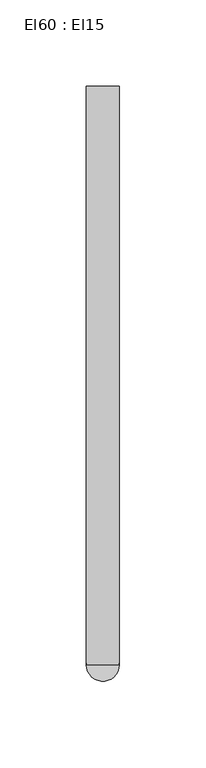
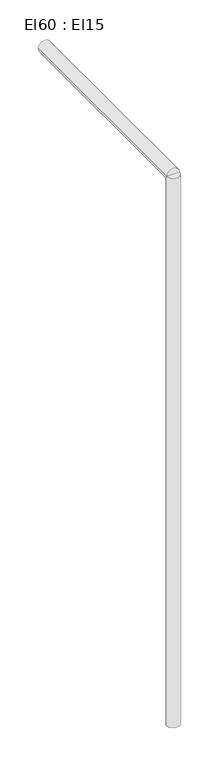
"""IFC4 building model written with IfcOpenShell, lengths in millimetres: cable carrier segment geometry, El60 : El15."""

import ifcopenshell
import ifcopenshell.guid

model = None  # the IFC model being written
_history = None  # IfcOwnerHistory: only IFC2X3 demands one
_inside = {}  # id of a spatial element -> (the spatial element, [elements in it])
_under = {}  # id of a project, library or spatial element -> (it, [spatial elements below it])
_declared = {}  # id of a project -> (the project, [libraries it declares])
_typed = {}  # id of a type object -> (the type object, [elements of that type])
_made_of = {}  # id of a material, layer set ... -> (it, [elements and type objects made of it])


def new_model(schema):
    """Start an empty IFC model of exactly this schema.

    Asked for "IFC4X3", IfcOpenShell would pick the latest addendum, in which some entities
    have other attributes; the version numbers below select the first issue.
    IFC2X3 requires an IfcOwnerHistory on every rooted entity: one is made here for all.
    """
    global model, _history
    if schema == "IFC4X3":
        model = ifcopenshell.file(schema_version=(4, 3, 0, 0))
    else:
        model = ifcopenshell.file(schema=schema)
    _inside.clear()
    _under.clear()
    _declared.clear()
    _typed.clear()
    _made_of.clear()
    _history = None
    if model.schema == "IFC2X3":
        org = make("IfcOrganization", Name="unknown")
        user = make(
            "IfcPersonAndOrganization",
            ThePerson=make("IfcPerson", FamilyName="unknown"),
            TheOrganization=org,
        )
        app = make(
            "IfcApplication",
            ApplicationDeveloper=org,
            Version="unknown",
            ApplicationFullName="unknown",
            ApplicationIdentifier="unknown",
        )
        _history = make(
            "IfcOwnerHistory",
            OwningUser=user,
            OwningApplication=app,
            ChangeAction="ADDED",
            CreationDate=0,
        )
    return model


def make(cls, **values):
    """One entity of the class cls with the attributes given. An attribute that is None is left unset."""
    return model.create_entity(
        cls, **{name: value for name, value in values.items() if value is not None}
    )


def rooted(cls, **values):
    """An entity with a GlobalId (a new one), such as an element, a storey or a relation."""
    return make(cls, GlobalId=ifcopenshell.guid.new(), OwnerHistory=_history, **values)


def si_unit(unit_type, name, prefix=None):
    """IfcSIUnit, for example si_unit("LENGTHUNIT", "METRE", prefix="MILLI")."""
    return make("IfcSIUnit", UnitType=unit_type, Prefix=prefix, Name=name)


def assignment(units):
    """IfcUnitAssignment: the units of a project."""
    return None if units is None else make("IfcUnitAssignment", Units=units)


def point(xyz):
    """IfcCartesianPoint."""
    return None if xyz is None else make("IfcCartesianPoint", Coordinates=xyz)


def direction(xyz):
    """IfcDirection."""
    return None if xyz is None else make("IfcDirection", DirectionRatios=xyz)


def frame(location, z_axis=None, x_axis=None):
    """IfcAxis2Placement3D, a coordinate frame: its origin and axes. An axis left out is left unset."""
    return make(
        "IfcAxis2Placement3D",
        Location=point(location),
        Axis=direction(z_axis),
        RefDirection=direction(x_axis),
    )


def frame_2d(location, x_axis=None):
    """IfcAxis2Placement2D, a coordinate frame in the plane: its origin and x axis."""
    return make(
        "IfcAxis2Placement2D", Location=point(location), RefDirection=direction(x_axis)
    )


def origin():
    """The frame at (0, 0, 0) with its axes left unset."""
    return frame((0.0, 0.0, 0.0))


def place(relative_to, where):
    """IfcLocalPlacement: puts the frame where relative to a parent placement (None: the world)."""
    return make(
        "IfcLocalPlacement", PlacementRelTo=relative_to, RelativePlacement=where
    )


def context(
    kind, dimensions, precision=None, world=None, true_north=None, identifier=None
):
    """IfcGeometricRepresentationContext, for example the 3D "Model" context."""
    return make(
        "IfcGeometricRepresentationContext",
        ContextIdentifier=identifier,
        ContextType=kind,
        CoordinateSpaceDimension=dimensions,
        Precision=precision,
        WorldCoordinateSystem=world,
        TrueNorth=true_north,
    )


def project(units=None, contexts=None):
    """IfcProject with its units and contexts."""
    return rooted(
        "IfcProject",
        Name="project",
        RepresentationContexts=contexts,
        UnitsInContext=assignment(units),
    )


def spatial(cls, under=None, at=None, **own):
    """A site, building, storey or space (cls), placed at a placement, below another one or the project."""
    s = rooted(cls, ObjectPlacement=at, **own)
    if under is not None:
        _under.setdefault(under.id(), (under, []))[1].append(s)
    return s


def circle_curve(where, radius):
    """IfcCircle in the frame where."""
    return make("IfcCircle", Position=where, Radius=radius)


def trimmed(basis, trim1, trim2, sense, master):
    """IfcTrimmedCurve: the piece of a basis curve between two trims."""
    return make(
        "IfcTrimmedCurve",
        BasisCurve=basis,
        Trim1=trim1,
        Trim2=trim2,
        SenseAgreement=sense,
        MasterRepresentation=master,
    )


def segment(curve, same_sense, transition):
    """IfcCompositeCurveSegment."""
    return make(
        "IfcCompositeCurveSegment",
        Transition=transition,
        SameSense=same_sense,
        ParentCurve=curve,
    )


def composite_curve(segments, self_intersect=None):
    """IfcCompositeCurve: segments joined end to end."""
    return make("IfcCompositeCurve", Segments=segments, SelfIntersect=self_intersect)


def outline(outer, holes=None, kind="AREA"):
    """IfcArbitraryClosedProfileDef: a profile drawn as a closed curve; with holes, ...WithVoids."""
    if holes is None:
        return make("IfcArbitraryClosedProfileDef", ProfileType=kind, OuterCurve=outer)
    return make(
        "IfcArbitraryProfileDefWithVoids",
        ProfileType=kind,
        OuterCurve=outer,
        InnerCurves=holes,
    )


def extrude(swept, where, along, depth):
    """IfcExtrudedAreaSolid: the profile swept, set in the frame where, extruded along a direction by depth."""
    return make(
        "IfcExtrudedAreaSolid",
        SweptArea=swept,
        Position=where,
        ExtrudedDirection=direction(along),
        Depth=depth,
    )


def shape(context_of_items, identifier, shape_type, items):
    """IfcShapeRepresentation: the items that make up one representation, for example the "Body"."""
    return make(
        "IfcShapeRepresentation",
        ContextOfItems=context_of_items,
        RepresentationIdentifier=identifier,
        RepresentationType=shape_type,
        Items=items,
    )


def source(mapping_origin, context_of_items, identifier, shape_type, items):
    """IfcRepresentationMap: a shape defined once, which mapped items show again and again."""
    return make(
        "IfcRepresentationMap",
        MappingOrigin=mapping_origin,
        MappedRepresentation=shape(context_of_items, identifier, shape_type, items),
    )


def transform(
    local_origin,
    x_axis=None,
    y_axis=None,
    z_axis=None,
    scale=None,
    scale2=None,
    scale3=None,
    uniform=True,
):
    """IfcCartesianTransformationOperator3D, or its non-uniform kind. x_axis, y_axis, z_axis: its Axis1, 2, 3."""
    if uniform:
        return make(
            "IfcCartesianTransformationOperator3D",
            Axis1=direction(x_axis),
            Axis2=direction(y_axis),
            LocalOrigin=point(local_origin),
            Scale=scale,
            Axis3=direction(z_axis),
        )
    return make(
        "IfcCartesianTransformationOperator3DnonUniform",
        Axis1=direction(x_axis),
        Axis2=direction(y_axis),
        LocalOrigin=point(local_origin),
        Scale=scale,
        Axis3=direction(z_axis),
        Scale2=scale2,
        Scale3=scale3,
    )


def mapped(mapping_source, mapping_target):
    """IfcMappedItem: shows the shape of a source again, moved by a transform."""
    return make(
        "IfcMappedItem", MappingSource=mapping_source, MappingTarget=mapping_target
    )


def made_of(thing, what):
    """Note that an element or type object is made of a material, layer set ...; save() writes the relation."""
    if what is not None:
        _made_of.setdefault(what.id(), (what, []))[1].append(thing)
    return thing


def element(
    cls,
    number,
    at=None,
    inside=None,
    cuts=None,
    type_object=None,
    material=None,
    context=None,
    identifier="Body",
    shape_type=None,
    held_by="IfcProductDefinitionShape",
    body=None,
    shapes=None,
    **own,
):
    """One element of the class cls, such as IfcWall. Its Tag is "e" and its number.

    at: its placement. inside: the storey or other place that contains it. cuts: it is an
    opening in that element (IfcRelVoidsElement). A single representation is given by context,
    identifier, shape_type and body (its items); several are given by shapes. held_by: the class
    of the entity that holds the representations. save() writes the other relations.
    """
    e = rooted(cls, Tag="e%d" % number, ObjectPlacement=at, **own)
    if body is not None:
        shapes = [shape(context, identifier, shape_type, body)]
    if shapes is not None:
        e.Representation = make(held_by, Representations=shapes)
    if inside is not None:
        _inside.setdefault(inside.id(), (inside, []))[1].append(e)
    if cuts is not None:
        rooted(
            "IfcRelVoidsElement", RelatingBuildingElement=cuts, RelatedOpeningElement=e
        )
    if type_object is not None:
        _typed.setdefault(type_object.id(), (type_object, []))[1].append(e)
    return made_of(e, material)


def aggregate(whole, parts):
    """IfcRelAggregates: a whole, such as a stair, and the parts it consists of."""
    return rooted("IfcRelAggregates", RelatingObject=whole, RelatedObjects=parts)


def save(model, path):
    """Write the relations noted so far, then the file.

    IfcRelAggregates (storeys below a building ...), IfcRelContainedInSpatialStructure (elements
    in a storey), IfcRelDefinesByType, IfcRelAssociatesMaterial and IfcRelDeclares: one each for
    every whole, place, type object, material and project.
    """
    for whole, parts in _under.values():
        aggregate(whole, parts)
    for where, things in _inside.values():
        rooted(
            "IfcRelContainedInSpatialStructure",
            RelatedElements=things,
            RelatingStructure=where,
        )
    for kind, things in _typed.values():
        rooted("IfcRelDefinesByType", RelatedObjects=things, RelatingType=kind)
    for what, things in _made_of.values():
        rooted("IfcRelAssociatesMaterial", RelatedObjects=things, RelatingMaterial=what)
    for by, libraries in _declared.values():
        rooted("IfcRelDeclares", RelatingContext=by, RelatedDefinitions=libraries)
    model.write(path)


def el60_el15_bd98858c(model_context):
    return source(origin(), model_context, "Body", "SweptSolid", [
        extrude(outline(composite_curve([segment(trimmed(circle_curve(frame_2d((114.4746511, 3125.8401745)), 9.5), [point((104.9746511, 3125.8401745))], [point((123.9746511, 3125.8401745))], False, "CARTESIAN"), True, "CONTINUOUS"), segment(trimmed(circle_curve(frame_2d((114.4746511, 3125.8401745)), 9.5), [point((123.9746511, 3125.8401745))], [point((104.9746511, 3125.8401745))], False, "CARTESIAN"), True, "CONTINUOUS")], self_intersect=False)), frame((0.0, 0.0, 1830.0), z_axis=(0.0, 0.0, 1.0), x_axis=(1.0, 0.0, 0.0)), (0.0, 0.0, 1.0), 870.0),
        extrude(outline(composite_curve([segment(trimmed(circle_curve(frame_2d((2700.0, 114.4746511)), 9.5), [point((2700.0, 104.9746511))], [point((2700.0, 123.9746511))], False, "CARTESIAN"), True, "CONTINUOUS"), segment(trimmed(circle_curve(frame_2d((2700.0, 114.4746511)), 9.5), [point((2700.0, 123.9746511))], [point((2700.0, 104.9746511))], False, "CARTESIAN"), True, "CONTINUOUS")], self_intersect=False)), frame((0.0, 3125.8411745, 0.0), z_axis=(0.0, 1.0, 0.0), x_axis=(0.0, 0.0, 1.0)), (0.0, 0.0, 1.0), 334.443),
    ])


if __name__ == "__main__":
    model = new_model("IFC4")
    model_context = context("Model", 3, world=origin())
    ifc_project = project(units=[si_unit("LENGTHUNIT", "METRE", prefix="MILLI")], contexts=[model_context])
    site = spatial("IfcSite", under=ifc_project)
    building = spatial("IfcBuilding", under=site)
    placement = place(None, origin())
    el60_el15_shape = el60_el15_bd98858c(model_context)
    element("IfcCableCarrierSegment", 1, ObjectType="El60 : El15", at=placement, inside=building, context=model_context, shape_type="MappedRepresentation", body=[
        mapped(el60_el15_shape, transform((0.0, 0.0, 0.0), x_axis=(1.0, 0.0, 0.0), y_axis=(0.0, 1.0, 0.0), z_axis=(0.0, 0.0, 1.0))),
    ])
    save(model, "model.ifc")
